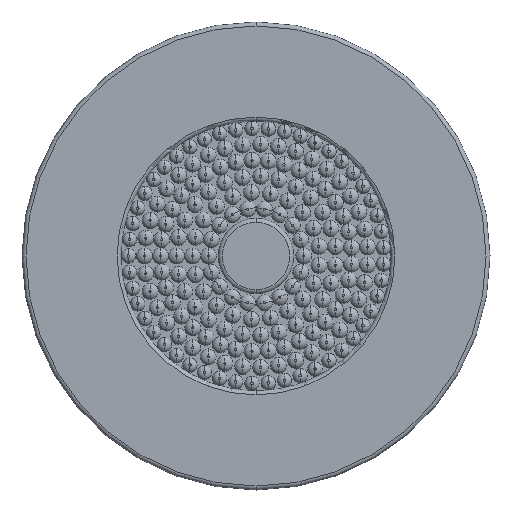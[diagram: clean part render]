
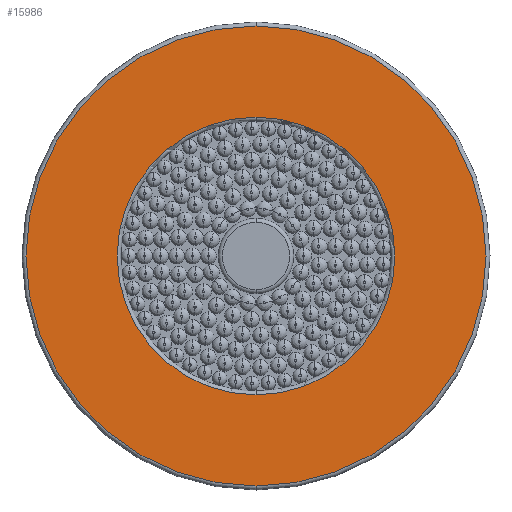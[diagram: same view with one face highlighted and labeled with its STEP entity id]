
A CAD part, front view. The second image highlights one B-rep face of the part: STEP entity #15986.
In plain terms, the highlighted planar face has unit normal (0, -1, 0).
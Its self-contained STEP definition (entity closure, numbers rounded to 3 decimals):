
#124 = CARTESIAN_POINT ( 'NONE',  ( 0., 0., 0. ) ) ;
#657 = CARTESIAN_POINT ( 'NONE',  ( 0., 0., 0. ) ) ;
#674 = DIRECTION ( 'NONE',  ( 0., 0., 1. ) ) ;
#746 = FACE_OUTER_BOUND ( 'NONE', #12218, .T. ) ;
#911 = CARTESIAN_POINT ( 'NONE',  ( 0., 0., 17.5 ) ) ;
#1315 = ORIENTED_EDGE ( 'NONE', *, *, #12020, .T. ) ;
#2973 = CIRCLE ( 'NONE', #10350, 29. ) ;
#3200 = CARTESIAN_POINT ( 'NONE',  ( 0., 0., 0. ) ) ;
#3483 = DIRECTION ( 'NONE',  ( 0., 1., 0. ) ) ;
#3678 = VERTEX_POINT ( 'NONE', #7339 ) ;
#3693 = DIRECTION ( 'NONE',  ( 0., -1., 0. ) ) ;
#4517 = DIRECTION ( 'NONE',  ( 0., 0., 1. ) ) ;
#4705 = DIRECTION ( 'NONE',  ( 0., 1., 0. ) ) ;
#5381 = AXIS2_PLACEMENT_3D ( 'NONE', #13297, #3483, #674 ) ;
#5519 = VERTEX_POINT ( 'NONE', #11707 ) ;
#5670 = VERTEX_POINT ( 'NONE', #10960 ) ;
#5683 = DIRECTION ( 'NONE',  ( 0., -1., 0. ) ) ;
#5781 = CARTESIAN_POINT ( 'NONE',  ( 0., 0., 0. ) ) ;
#6018 = PLANE ( 'NONE',  #14444 ) ;
#6447 = AXIS2_PLACEMENT_3D ( 'NONE', #124, #3693, #6470 ) ;
#6470 = DIRECTION ( 'NONE',  ( 0., 0., 1. ) ) ;
#6614 = EDGE_CURVE ( 'NONE', #5670, #16008, #8204, .T. ) ;
#7058 = DIRECTION ( 'NONE',  ( 0., 1., 0. ) ) ;
#7339 = CARTESIAN_POINT ( 'NONE',  ( 0., 0., 29. ) ) ;
#7494 = CIRCLE ( 'NONE', #6447, 29. ) ;
#8204 = CIRCLE ( 'NONE', #11136, 17.5 ) ;
#10342 = ORIENTED_EDGE ( 'NONE', *, *, #14532, .T. ) ;
#10350 = AXIS2_PLACEMENT_3D ( 'NONE', #657, #5683, #14671 ) ;
#10960 = CARTESIAN_POINT ( 'NONE',  ( 0., 0., -17.5 ) ) ;
#11136 = AXIS2_PLACEMENT_3D ( 'NONE', #3200, #7058, #4517 ) ;
#11450 = CIRCLE ( 'NONE', #5381, 17.5 ) ;
#11707 = CARTESIAN_POINT ( 'NONE',  ( 0., 0., -29. ) ) ;
#12020 = EDGE_CURVE ( 'NONE', #5519, #3678, #7494, .T. ) ;
#12052 = FACE_BOUND ( 'NONE', #13976, .T. ) ;
#12137 = DIRECTION ( 'NONE',  ( 0., 0., 1. ) ) ;
#12218 = EDGE_LOOP ( 'NONE', ( #10342, #1315 ) ) ;
#12739 = EDGE_CURVE ( 'NONE', #16008, #5670, #11450, .T. ) ;
#13005 = ORIENTED_EDGE ( 'NONE', *, *, #6614, .T. ) ;
#13297 = CARTESIAN_POINT ( 'NONE',  ( 0., 0., 0. ) ) ;
#13976 = EDGE_LOOP ( 'NONE', ( #14877, #13005 ) ) ;
#14444 = AXIS2_PLACEMENT_3D ( 'NONE', #5781, #4705, #12137 ) ;
#14532 = EDGE_CURVE ( 'NONE', #3678, #5519, #2973, .T. ) ;
#14671 = DIRECTION ( 'NONE',  ( 0., 0., 1. ) ) ;
#14877 = ORIENTED_EDGE ( 'NONE', *, *, #12739, .T. ) ;
#15986 = ADVANCED_FACE ( 'NONE', ( #12052, #746 ), #6018, .F. ) ;
#16008 = VERTEX_POINT ( 'NONE', #911 ) ;
